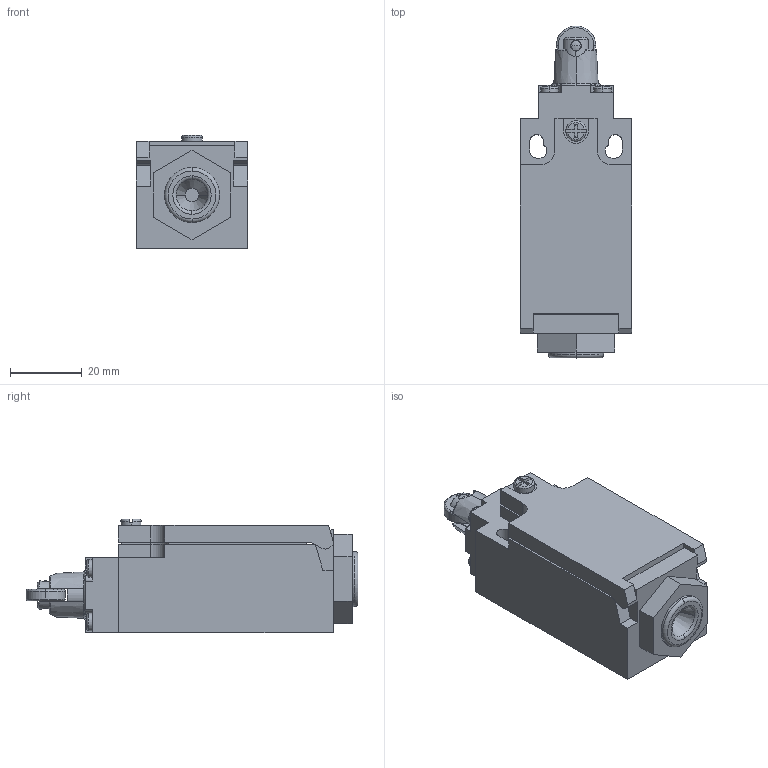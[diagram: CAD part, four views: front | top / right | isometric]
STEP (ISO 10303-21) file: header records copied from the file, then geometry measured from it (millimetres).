
FILE_DESCRIPTION (( 'STEP AP203' ), '1' );
FILE_NAME ('FM9212.STEP', '2018-03-23T13:26:47', ( '' ), ( '' ), 'SwSTEP 2.0', 'SolidWorks 2012', '' );
FILE_SCHEMA (( 'CONFIG_CONTROL_DESIGN' ));
Length unit declared in the file: millimetre
Products named in the file (1): FM9212
Bounding box: 31.2 x 92.7 x 31.7 mm (x, y, z)
Volume: 59572.3 mm3; surface area: 13588 mm2
Topology: 2 solids, 2 shells, 276 faces, 762 edges, 498 vertices
Faces by surface type: plane 185, cylinder 49, torus 27, cone 9, bspline 4, sphere 2
Entity records: 9260 total; most frequent: CARTESIAN_POINT 2169, ORIENTED_EDGE 1520, DIRECTION 1401, EDGE_CURVE 760, VERTEX_POINT 498, AXIS2_PLACEMENT_3D 468, VECTOR 465, LINE 465
